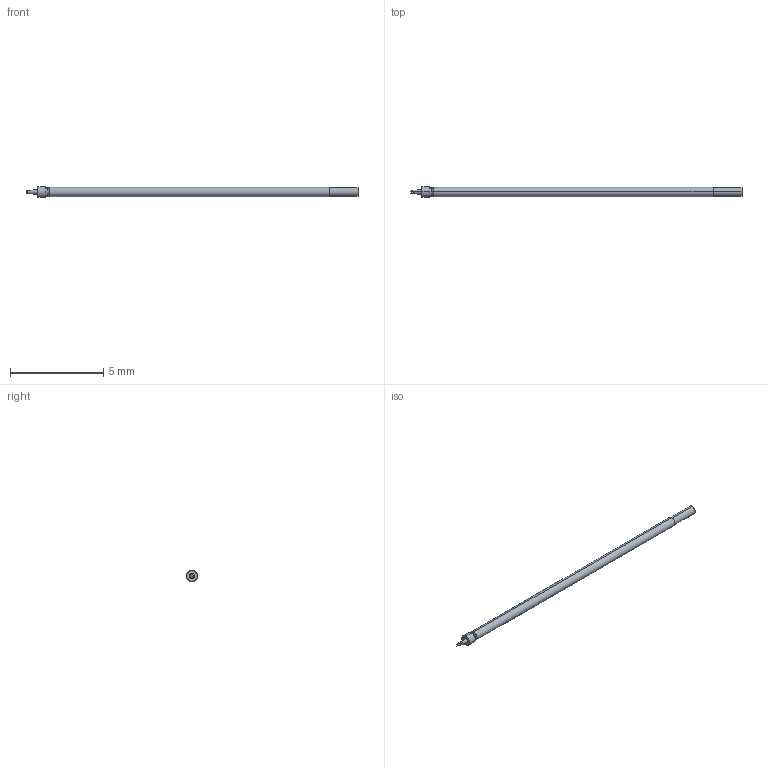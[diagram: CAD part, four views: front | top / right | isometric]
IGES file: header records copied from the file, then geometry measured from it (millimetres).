
Start section: SolidWorks IGES file using analytic representation for surfaces
Global section: file name: Z:\probe solid model mockups\Solidworks models\MEP-20 IGS files\MEP-20U RECD.IGS; native system: SolidWorks 2006 by SolidWorks Corporation; preprocessor: SolidWorks 2006 by SolidWorks Corporation; author: tsakatani; date: 071219.112829; units: inch
Bounding box: 17.78 x 0.58 x 0.58 mm (x, y, z)
Surface area: 28.1 mm2 (no closed solid volume)
Topology: 0 solids, 0 shells, 24 faces, 146 edges, 146 vertices
Faces by surface type: bspline 12, revolution 12
